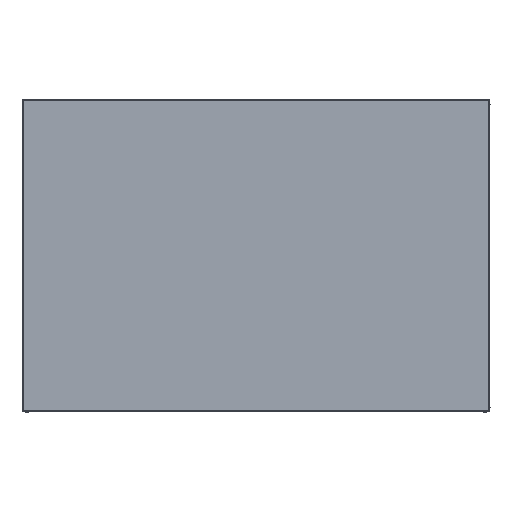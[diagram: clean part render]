
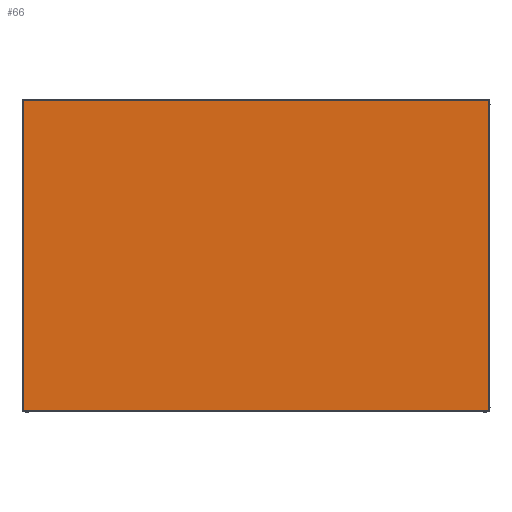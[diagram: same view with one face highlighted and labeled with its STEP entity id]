
A CAD part, top view. The second image highlights one B-rep face of the part: STEP entity #66.
In plain terms, the highlighted planar face has unit normal (0, 0, 1).
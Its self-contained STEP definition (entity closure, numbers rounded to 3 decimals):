
#66=ADVANCED_FACE('',(#149),#1116,.T.);
#149=FACE_OUTER_BOUND('',#232,.T.);
#232=EDGE_LOOP('',(#409,#410,#411,#412,#413,#414,#415,#416));
#409=ORIENTED_EDGE('',*,*,#659,.T.);
#410=ORIENTED_EDGE('',*,*,#692,.T.);
#411=ORIENTED_EDGE('',*,*,#675,.T.);
#412=ORIENTED_EDGE('',*,*,#676,.T.);
#413=ORIENTED_EDGE('',*,*,#650,.F.);
#414=ORIENTED_EDGE('',*,*,#720,.T.);
#415=ORIENTED_EDGE('',*,*,#703,.T.);
#416=ORIENTED_EDGE('',*,*,#704,.T.);
#650=EDGE_CURVE('',#1010,#1011,#956,.T.);
#659=EDGE_CURVE('',#1017,#1020,#965,.T.);
#675=EDGE_CURVE('',#1035,#1036,#841,.T.);
#676=EDGE_CURVE('',#1036,#1011,#842,.T.);
#692=EDGE_CURVE('',#1020,#1035,#846,.T.);
#703=EDGE_CURVE('',#1047,#1048,#857,.T.);
#704=EDGE_CURVE('',#1048,#1017,#858,.T.);
#720=EDGE_CURVE('',#1010,#1047,#862,.T.);
#841=B_SPLINE_CURVE_WITH_KNOTS('',1,(#1662,#1663),.UNSPECIFIED.,.F.,.F.,
(2,2),(1.,601.),.UNSPECIFIED.);
#842=B_SPLINE_CURVE_WITH_KNOTS('',1,(#1664,#1665),.UNSPECIFIED.,.F.,.F.,
(2,2),(1.,301.),.UNSPECIFIED.);
#846=B_SPLINE_CURVE_WITH_KNOTS('',1,(#1708,#1709),.UNSPECIFIED.,.F.,.F.,
(2,2),(301.,601.),.UNSPECIFIED.);
#857=B_SPLINE_CURVE_WITH_KNOTS('',1,(#1730,#1731),.UNSPECIFIED.,.F.,.F.,
(2,2),(1.,601.),.UNSPECIFIED.);
#858=B_SPLINE_CURVE_WITH_KNOTS('',1,(#1732,#1733),.UNSPECIFIED.,.F.,.F.,
(2,2),(1.,301.),.UNSPECIFIED.);
#862=B_SPLINE_CURVE_WITH_KNOTS('',1,(#1776,#1777),.UNSPECIFIED.,.F.,.F.,
(2,2),(301.,601.),.UNSPECIFIED.);
#956=(
BOUNDED_CURVE()
B_SPLINE_CURVE(1,(#1605,#1606),.UNSPECIFIED.,.F.,.F.)
B_SPLINE_CURVE_WITH_KNOTS((2,2),(0.,300.),.UNSPECIFIED.)
CURVE()
GEOMETRIC_REPRESENTATION_ITEM()
RATIONAL_B_SPLINE_CURVE((1.,1.))
REPRESENTATION_ITEM('')
);
#965=(
BOUNDED_CURVE()
B_SPLINE_CURVE(1,(#1628,#1629),.UNSPECIFIED.,.F.,.F.)
B_SPLINE_CURVE_WITH_KNOTS((2,2),(0.,300.),.UNSPECIFIED.)
CURVE()
GEOMETRIC_REPRESENTATION_ITEM()
RATIONAL_B_SPLINE_CURVE((1.,1.))
REPRESENTATION_ITEM('')
);
#1010=VERTEX_POINT('',#1563);
#1011=VERTEX_POINT('',#1564);
#1017=VERTEX_POINT('',#1570);
#1020=VERTEX_POINT('',#1573);
#1035=VERTEX_POINT('',#1588);
#1036=VERTEX_POINT('',#1589);
#1047=VERTEX_POINT('',#1600);
#1048=VERTEX_POINT('',#1601);
#1116=PLANE('',#1219);
#1219=AXIS2_PLACEMENT_3D('',#1559,#1269,$);
#1269=DIRECTION('',(0.,0.,1.));
#1559=CARTESIAN_POINT('',(-301.,301.,400.));
#1563=CARTESIAN_POINT('',(0.,300.,400.));
#1564=CARTESIAN_POINT('',(300.,300.,400.));
#1570=CARTESIAN_POINT('',(0.,-300.,400.));
#1573=CARTESIAN_POINT('',(300.,-300.,400.));
#1588=CARTESIAN_POINT('',(600.,-300.,400.));
#1589=CARTESIAN_POINT('',(600.,300.,400.));
#1600=CARTESIAN_POINT('',(-300.,300.,400.));
#1601=CARTESIAN_POINT('',(-300.,-300.,400.));
#1605=CARTESIAN_POINT('',(0.,300.,400.));
#1606=CARTESIAN_POINT('',(300.,300.,400.));
#1628=CARTESIAN_POINT('',(0.,-300.,400.));
#1629=CARTESIAN_POINT('',(300.,-300.,400.));
#1662=CARTESIAN_POINT('',(600.,-300.,400.));
#1663=CARTESIAN_POINT('',(600.,300.,400.));
#1664=CARTESIAN_POINT('',(600.,300.,400.));
#1665=CARTESIAN_POINT('',(300.,300.,400.));
#1708=CARTESIAN_POINT('',(300.,-300.,400.));
#1709=CARTESIAN_POINT('',(600.,-300.,400.));
#1730=CARTESIAN_POINT('',(-300.,300.,400.));
#1731=CARTESIAN_POINT('',(-300.,-300.,400.));
#1732=CARTESIAN_POINT('',(-300.,-300.,400.));
#1733=CARTESIAN_POINT('',(0.,-300.,400.));
#1776=CARTESIAN_POINT('',(0.,300.,400.));
#1777=CARTESIAN_POINT('',(-300.,300.,400.));
